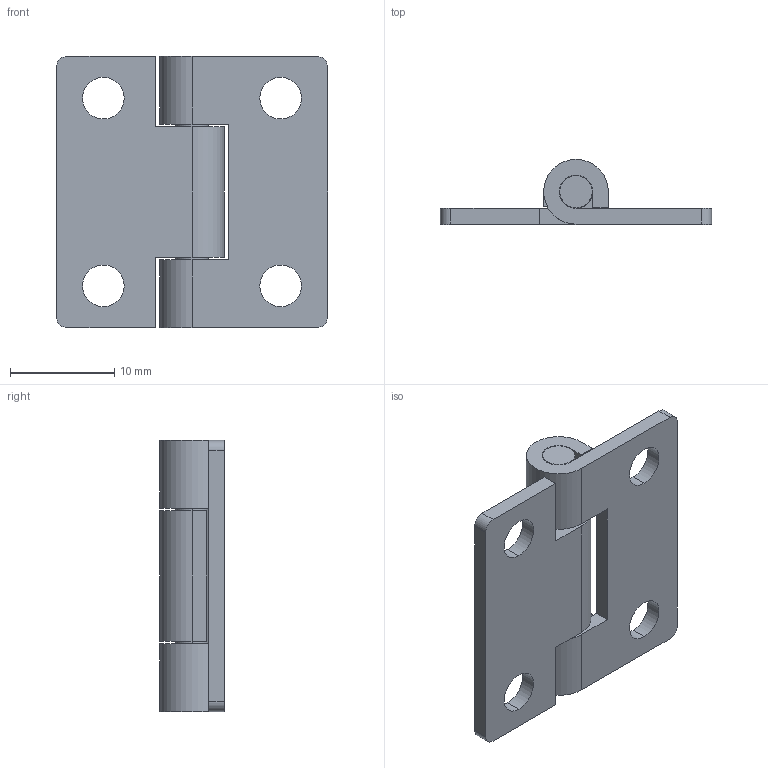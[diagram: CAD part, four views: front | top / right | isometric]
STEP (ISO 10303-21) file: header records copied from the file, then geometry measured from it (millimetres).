
FILE_DESCRIPTION (( 'STEP AP214' ), '1' );
FILE_NAME ('26x26籵謂.STEP', '2023-08-17T09:22:51', ( '' ), ( '' ), 'SwSTEP 2.0', 'SolidWorks 2019', '' );
FILE_SCHEMA (( 'AUTOMOTIVE_DESIGN' ));
Length unit declared in the file: millimetre
Products named in the file (1): 26x26籵謂
Bounding box: 26 x 6.2 x 26 mm (x, y, z)
Volume: 1471.9 mm3; surface area: 2399.5 mm2
Topology: 3 solids, 3 shells, 48 faces, 126 edges, 84 vertices
Faces by surface type: plane 28, cylinder 20
Entity records: 1558 total; most frequent: DIRECTION 264, CARTESIAN_POINT 259, ORIENTED_EDGE 252, EDGE_CURVE 126, AXIS2_PLACEMENT_3D 89, LINE 86, VECTOR 86, VERTEX_POINT 84
